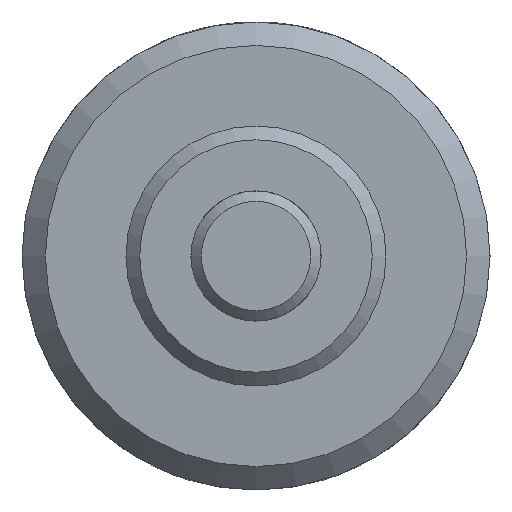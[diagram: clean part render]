
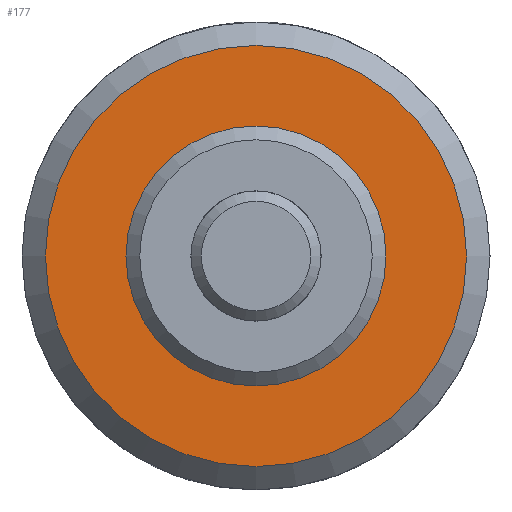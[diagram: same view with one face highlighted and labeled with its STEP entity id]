
A CAD part, left-side view. The second image highlights one B-rep face of the part: STEP entity #177.
In plain terms, the highlighted planar face has unit normal (-1, 0, 0).
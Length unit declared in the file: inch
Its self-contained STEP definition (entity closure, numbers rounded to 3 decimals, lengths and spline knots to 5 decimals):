
#177 = ADVANCED_FACE( '', ( #361, #362 ), #363, .F. );
#361 = FACE_OUTER_BOUND( '', #559, .T. );
#362 = FACE_BOUND( '', #560, .T. );
#363 = PLANE( '', #561 );
#559 = EDGE_LOOP( '', ( #846 ) );
#560 = EDGE_LOOP( '', ( #847 ) );
#561 = AXIS2_PLACEMENT_3D( '', #848, #849, #850 );
#846 = ORIENTED_EDGE( '', *, *, #1022, .F. );
#847 = ORIENTED_EDGE( '', *, *, #1024, .T. );
#848 = CARTESIAN_POINT( '', ( 0.5, 0.312, 0. ) );
#849 = DIRECTION( '', ( 1., 0., 0. ) );
#850 = DIRECTION( '', ( 0., 0., -1. ) );
#1022 = EDGE_CURVE( '', #1167, #1167, #1168, .T. );
#1024 = EDGE_CURVE( '', #1170, #1170, #1171, .T. );
#1167 = VERTEX_POINT( '', #1359 );
#1168 = CIRCLE( '', #1360, 0.50625 );
#1170 = VERTEX_POINT( '', #1362 );
#1171 = CIRCLE( '', #1363, 0.312 );
#1359 = CARTESIAN_POINT( '', ( 0.5, 0., -0.50625 ) );
#1360 = AXIS2_PLACEMENT_3D( '', #1642, #1643, #1644 );
#1362 = CARTESIAN_POINT( '', ( 0.5, 0., -0.312 ) );
#1363 = AXIS2_PLACEMENT_3D( '', #1645, #1646, #1647 );
#1642 = CARTESIAN_POINT( '', ( 0.5, 0., 0. ) );
#1643 = DIRECTION( '', ( 1., 0., 0. ) );
#1644 = DIRECTION( '', ( 0., 0., -1. ) );
#1645 = CARTESIAN_POINT( '', ( 0.5, 0., 0. ) );
#1646 = DIRECTION( '', ( 1., 0., 0. ) );
#1647 = DIRECTION( '', ( 0., 0., -1. ) );
